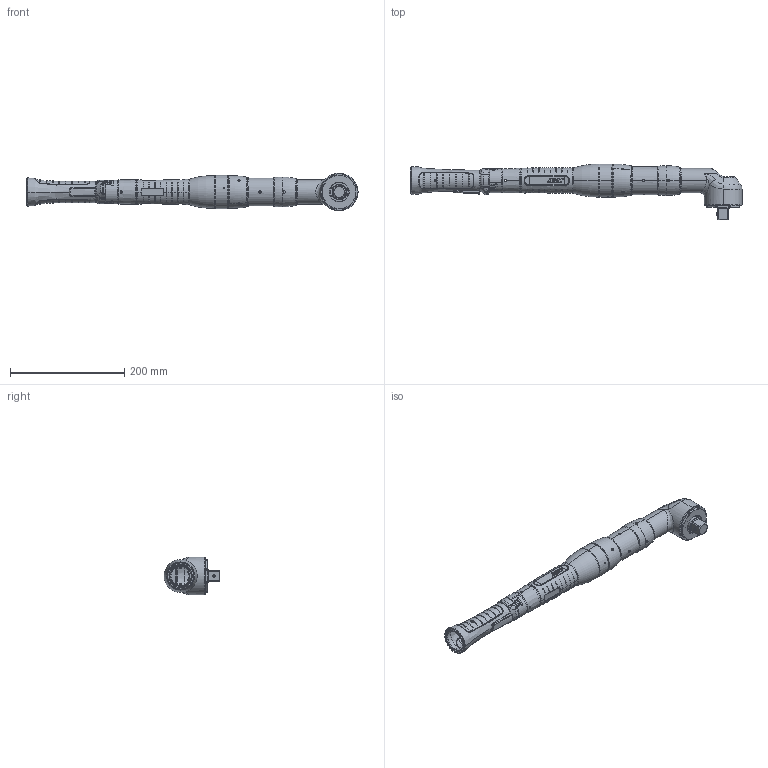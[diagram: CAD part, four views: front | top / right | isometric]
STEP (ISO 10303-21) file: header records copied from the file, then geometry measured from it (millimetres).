
FILE_DESCRIPTION (( 'STEP AP214' ), '1' );
FILE_NAME ('7900206_HCX2200WV34_Standard.STEP', '2012-02-07T16:23:16', ( ' ' ), ( '' ), 'SwSTEP 2.0', 'SolidWorks 2009', '' );
FILE_SCHEMA (( 'AUTOMOTIVE_DESIGN' ));
Length unit declared in the file: millimetre
Products named in the file (1): 7900206_HCX2200WV34_Standard
Bounding box: 582 x 98 x 66 mm (x, y, z)
Surface area: 114638.6 mm2 (no closed solid volume)
Topology: 0 solids, 35 shells, 888 faces, 3044 edges, 2069 vertices
Faces by surface type: torus 240, cylinder 211, plane 206, bspline 185, cone 44, sphere 2
Entity records: 57532 total; most frequent: CARTESIAN_POINT 24120, ORIENTED_EDGE 4815, DIRECTION 4590, EDGE_CURVE 3030, VERTEX_POINT 2064, AXIS2_PLACEMENT_3D 1962, CIRCLE 1258, EDGE_LOOP 974
